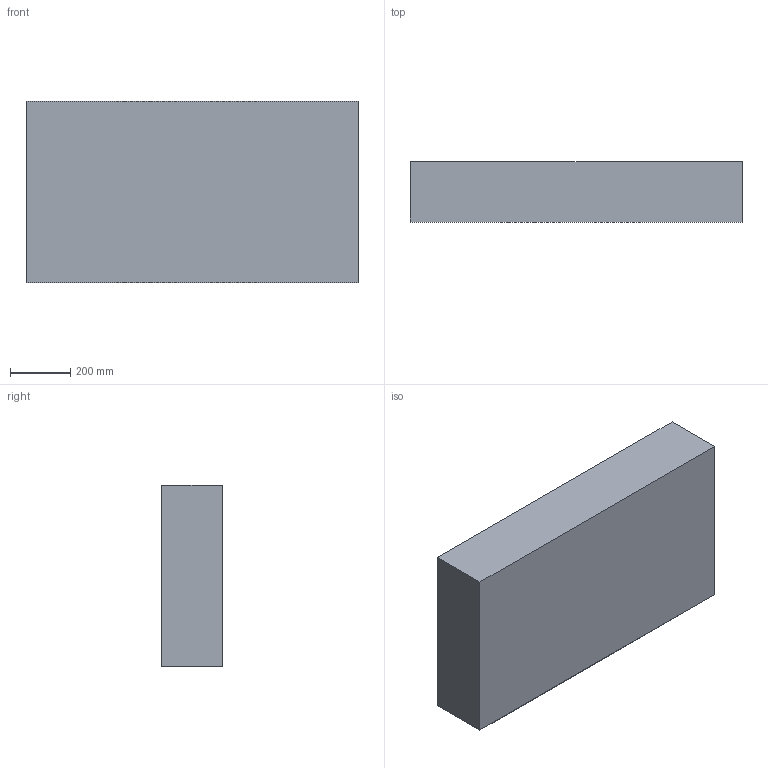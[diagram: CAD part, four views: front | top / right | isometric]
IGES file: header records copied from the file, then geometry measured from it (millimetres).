
Start section:  PTC IGES file: fu10089a.igs
Global section: file name: fu10089a.igs; native system: Pro/ENGINEER by Parametric Technology Corporation; preprocessor: 2010180; author: damjan; organization: Unknown; date: 20101209.143503; units: millimetre
Bounding box: 1100 x 200 x 601 mm (x, y, z)
Volume: 131854854.8 mm3; surface area: 2062807.1 mm2
Topology: 1 solids, 1 shells, 14 faces, 36 edges, 24 vertices
Faces by surface type: bspline 14
